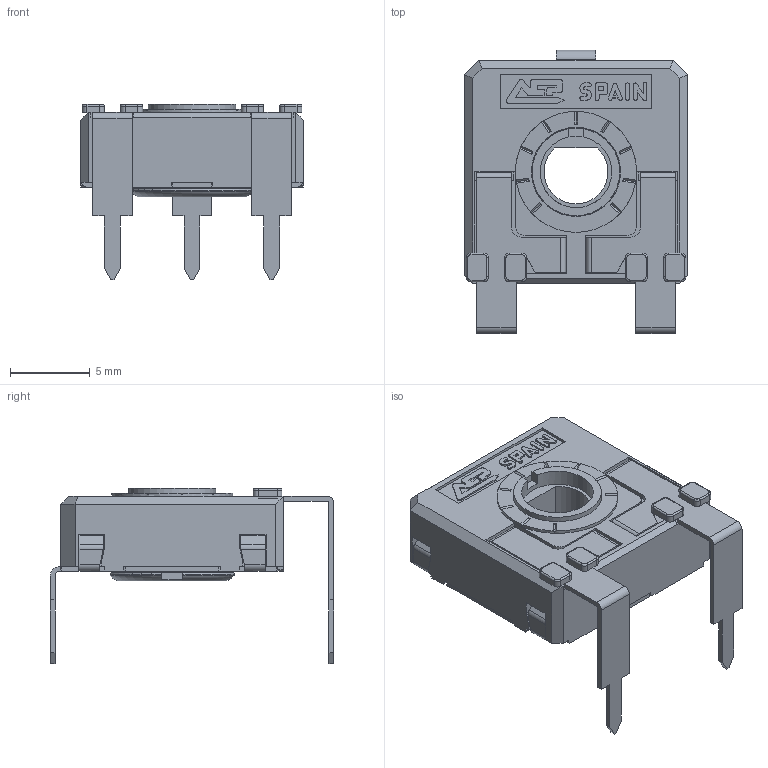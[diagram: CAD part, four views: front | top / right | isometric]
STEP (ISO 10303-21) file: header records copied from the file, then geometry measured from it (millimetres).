
FILE_DESCRIPTION(/* description */ (''),/* implementation_level */ '2;1');
FILE_NAME(/* name */ '\\SERVERACP\intercambio\Ignacio Santa Cecilia\Nueva WEB 2025\CA14 - CE14\CA14FV17,5 RT-RO.stp',/* time_stamp */ '2025-06-12T09:46:43+02:00',/* author */ ('CEM'),/* organization */ (''),/* preprocessor_version */ 'ST-DEVELOPER v17',/* originating_system */ 'Autodesk Inventor 2018',/* authorisation */ '');
FILE_SCHEMA (('AUTOMOTIVE_DESIGN { 1 0 10303 214 3 1 1 }'));
Length unit declared in the file: millimetre
Products named in the file (1): CARCASA CA14 PGA
Bounding box: 14 x 17.8 x 11 mm (x, y, z)
Volume: 537.7 mm3; surface area: 1516.5 mm2
Topology: 1 solids, 1 shells, 668 faces, 1887 edges, 1215 vertices
Faces by surface type: plane 495, cylinder 136, torus 23, bspline 8, cone 6
Full cylindrical faces by diameter (mm): 4.5 x1, 5.5 x1, 5.6 x1, 5.752 x1, 6.8 x1, 7.6 x1
Entity records: 21817 total; most frequent: CARTESIAN_POINT 4068, ORIENTED_EDGE 3774, DIRECTION 3521, EDGE_CURVE 1887, LINE 1485, VECTOR 1485, VERTEX_POINT 1215, AXIS2_PLACEMENT_3D 1018
